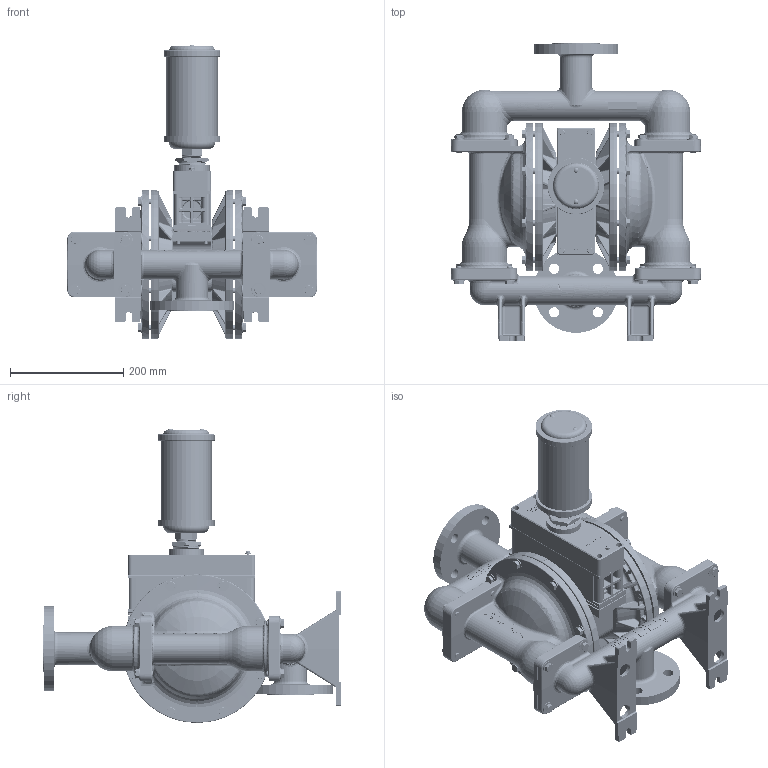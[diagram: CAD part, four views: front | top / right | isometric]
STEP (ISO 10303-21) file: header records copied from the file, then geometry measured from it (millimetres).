
FILE_DESCRIPTION((''),'2;1');
FILE_NAME('PS400_ADV_SS_DROP_IN__SW0002','2014-05-13T',('mike.hiatt'),(''),'PRO/ENGINEER BY PARAMETRIC TECHNOLOGY CORPORATION, 2011180','PRO/ENGINEER BY PARAMETRIC TECHNOLOGY CORPORATION, 2011180','');
FILE_SCHEMA(('CONFIG_CONTROL_DESIGN'));
Length unit declared in the file: inch
Products named in the file (1): PS400_ADV_SS_DROP_IN__SW0002
Bounding box: 443.47 x 526.29 x 521.16 mm (x, y, z)
Volume: 8209609.3 mm3; surface area: 1886851.5 mm2
Topology: 6 solids, 12 shells, 17531 faces, 46113 edges, 29099 vertices
Faces by surface type: plane 10551, bspline 2377, cylinder 1877, torus 1197, cone 1029, sphere 430, extrusion 70
Entity records: 987575 total; most frequent: CARTESIAN_POINT 573762, ORIENTED_EDGE 91766, DIRECTION 77581, EDGE_CURVE 45883, VECTOR 29765, LINE 29695, VERTEX_POINT 29099, AXIS2_PLACEMENT_3D 23908
